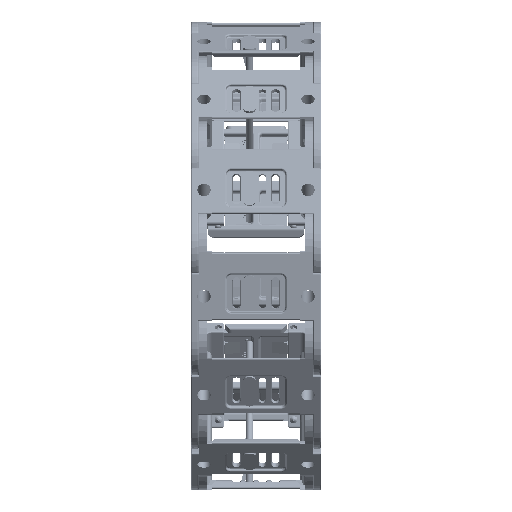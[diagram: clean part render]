
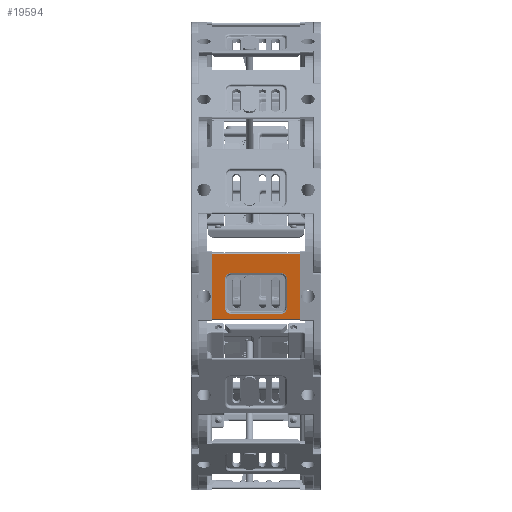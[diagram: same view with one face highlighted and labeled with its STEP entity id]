
A CAD part, front view. The second image highlights one B-rep face of the part: STEP entity #19594.
In plain terms, the highlighted planar face has unit normal (0, -0.988, -0.157) as drawn and (0, 1, 0) by its records, which use the part's own axes.
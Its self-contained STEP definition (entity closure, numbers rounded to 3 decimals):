
#568=CARTESIAN_POINT('',(-8.4,14.5,-5.0));
#569=VERTEX_POINT('',#568);
#577=CARTESIAN_POINT('',(-8.4,14.5,-39.));
#578=VERTEX_POINT('',#577);
#579=CARTESIAN_POINT('',(-8.4,14.5,-5.0));
#580=DIRECTION('',(0.0,0.0,-1.0));
#581=VECTOR('',#580,34.);
#582=LINE('',#579,#581);
#583=EDGE_CURVE('',#569,#578,#582,.T.);
#661=CARTESIAN_POINT('',(-6.601,14.5,-12.5));
#662=VERTEX_POINT('',#661);
#678=CARTESIAN_POINT('',(-6.601,14.5,-31.5));
#679=VERTEX_POINT('',#678);
#687=CARTESIAN_POINT('',(-6.601,14.5,-31.5));
#688=DIRECTION('',(0.0,0.0,1.0));
#689=VECTOR('',#688,19.);
#690=LINE('',#687,#689);
#691=EDGE_CURVE('',#679,#662,#690,.T.);
#703=CARTESIAN_POINT('',(6.899,14.5,-10.));
#704=VERTEX_POINT('',#703);
#720=CARTESIAN_POINT('',(-4.101,14.5,-10.));
#721=VERTEX_POINT('',#720);
#729=CARTESIAN_POINT('',(-4.101,14.5,-10.));
#730=DIRECTION('',(1.0,0.0,0.0));
#731=VECTOR('',#730,11.);
#732=LINE('',#729,#731);
#733=EDGE_CURVE('',#721,#704,#732,.T.);
#762=CARTESIAN_POINT('',(9.399,14.5,-12.5));
#763=VERTEX_POINT('',#762);
#771=CARTESIAN_POINT('',(9.399,14.5,-31.5));
#772=VERTEX_POINT('',#771);
#773=CARTESIAN_POINT('',(9.399,14.5,-12.5));
#774=DIRECTION('',(0.0,0.0,-1.0));
#775=VECTOR('',#774,19.);
#776=LINE('',#773,#775);
#777=EDGE_CURVE('',#763,#772,#776,.T.);
#794=CARTESIAN_POINT('',(16.672,14.5,-39.));
#795=VERTEX_POINT('',#794);
#805=CARTESIAN_POINT('',(16.672,14.5,-5.0));
#806=VERTEX_POINT('',#805);
#807=CARTESIAN_POINT('',(16.672,14.5,-39.));
#808=DIRECTION('',(0.0,0.0,1.0));
#809=VECTOR('',#808,34.);
#810=LINE('',#807,#809);
#811=EDGE_CURVE('',#795,#806,#810,.T.);
#3662=CARTESIAN_POINT('',(6.899,14.5,-34.));
#3663=VERTEX_POINT('',#3662);
#3671=CARTESIAN_POINT('',(-4.101,14.5,-34.));
#3672=VERTEX_POINT('',#3671);
#3673=CARTESIAN_POINT('',(-4.101,14.5,-34.));
#3674=DIRECTION('',(1.0,0.0,0.0));
#3675=VECTOR('',#3674,11.);
#3676=LINE('',#3673,#3675);
#3677=EDGE_CURVE('',#3672,#3663,#3676,.T.);
#7334=CARTESIAN_POINT('',(16.672,14.5,-39.));
#7335=DIRECTION('',(-1.0,0.0,0.0));
#7336=VECTOR('',#7335,25.072);
#7337=LINE('',#7334,#7336);
#7338=EDGE_CURVE('',#795,#578,#7337,.T.);
#7527=CARTESIAN_POINT('',(6.899,14.5,-31.5));
#7528=DIRECTION('',(0.0,-1.0,0.0));
#7529=DIRECTION('',(0.707,0.0,-0.707));
#7530=AXIS2_PLACEMENT_3D('',#7527,#7528,#7529);
#7531=CIRCLE('',#7530,2.5);
#7532=EDGE_CURVE('',#3663,#772,#7531,.T.);
#7552=CARTESIAN_POINT('',(-4.101,14.5,-31.5));
#7553=DIRECTION('',(0.0,-1.,0.0));
#7554=DIRECTION('',(-0.707,0.0,-0.707));
#7555=AXIS2_PLACEMENT_3D('',#7552,#7553,#7554);
#7556=CIRCLE('',#7555,2.5);
#7557=EDGE_CURVE('',#679,#3672,#7556,.T.);
#19343=CARTESIAN_POINT('',(16.672,14.5,-5.0));
#19344=DIRECTION('',(-1.0,0.0,0.0));
#19345=VECTOR('',#19344,25.072);
#19346=LINE('',#19343,#19345);
#19347=EDGE_CURVE('',#806,#569,#19346,.T.);
#19531=CARTESIAN_POINT('',(6.899,14.5,-12.5));
#19532=DIRECTION('',(0.0,1.,0.0));
#19533=DIRECTION('',(0.707,0.0,0.707));
#19534=AXIS2_PLACEMENT_3D('',#19531,#19532,#19533);
#19535=CIRCLE('',#19534,2.5);
#19536=EDGE_CURVE('',#704,#763,#19535,.T.);
#19555=CARTESIAN_POINT('',(-4.101,14.5,-12.5));
#19556=DIRECTION('',(0.0,1.,0.0));
#19557=DIRECTION('',(-0.707,0.0,0.707));
#19558=AXIS2_PLACEMENT_3D('',#19555,#19556,#19557);
#19559=CIRCLE('',#19558,2.5);
#19560=EDGE_CURVE('',#662,#721,#19559,.T.);
#19573=CARTESIAN_POINT('',(17.966,14.5,-27.0));
#19574=DIRECTION('',(0.0,-1.0,0.0));
#19575=DIRECTION('',(0.0,0.0,-1.0));
#19576=AXIS2_PLACEMENT_3D('',#19573,#19574,#19575);
#19577=PLANE('',#19576);
#19578=ORIENTED_EDGE('',*,*,#811,.F.);
#19579=ORIENTED_EDGE('',*,*,#7338,.T.);
#19580=ORIENTED_EDGE('',*,*,#583,.F.);
#19581=ORIENTED_EDGE('',*,*,#19347,.F.);
#19582=EDGE_LOOP('',(#19578,#19579,#19580,#19581));
#19583=FACE_OUTER_BOUND('',#19582,.T.);
#19584=ORIENTED_EDGE('',*,*,#777,.F.);
#19585=ORIENTED_EDGE('',*,*,#19536,.F.);
#19586=ORIENTED_EDGE('',*,*,#733,.F.);
#19587=ORIENTED_EDGE('',*,*,#19560,.F.);
#19588=ORIENTED_EDGE('',*,*,#691,.F.);
#19589=ORIENTED_EDGE('',*,*,#7557,.T.);
#19590=ORIENTED_EDGE('',*,*,#3677,.T.);
#19591=ORIENTED_EDGE('',*,*,#7532,.T.);
#19592=EDGE_LOOP('',(#19584,#19585,#19586,#19587,#19588,#19589,#19590,#19591));
#19593=FACE_BOUND('',#19592,.T.);
#19594=ADVANCED_FACE('',(#19583,#19593),#19577,.F.);
